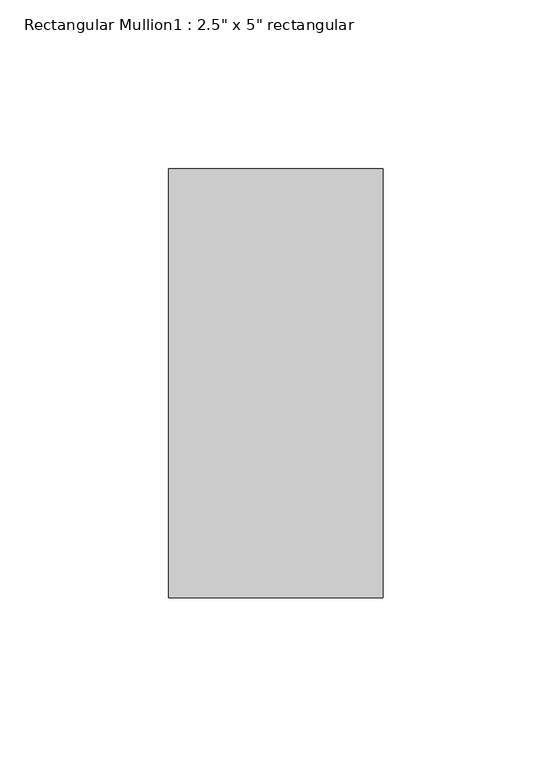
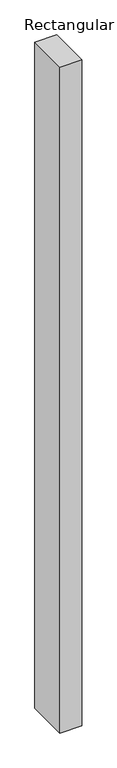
"""IFC4 building model written with IfcOpenShell, lengths in millimetres: member geometry."""

from ifc_helpers import new_model, si_unit, frame, origin, place, context, project, spatial, polyline, outline, extrude, source, transform, mapped, element, save


def member_6457a162(model_context):
    return source(origin(), model_context, "Body", "SweptSolid", [
        extrude(outline(polyline([(31.75, 63.5), (31.75, -63.5), (-31.75, -63.5), (-31.75, 63.5), (31.75, 63.5)])), frame((0.0, 0.0, -2059.94), z_axis=(0.0, 0.0, 1.0), x_axis=(1.0, 0.0, 0.0)), (0.0, 0.0, 1.0), 2059.94),
    ])


if __name__ == "__main__":
    model = new_model("IFC4")
    model_context = context("Model", 3, world=origin())
    ifc_project = project(units=[si_unit("LENGTHUNIT", "METRE", prefix="MILLI")], contexts=[model_context])
    site = spatial("IfcSite", under=ifc_project)
    building = spatial("IfcBuilding", under=site)
    placement = place(None, origin())
    member_shape = member_6457a162(model_context)
    element("IfcMember", 1, ObjectType="Rectangular Mullion1 : 2.5\" x 5\" rectangular", at=placement, inside=building, context=model_context, shape_type="MappedRepresentation", body=[
        mapped(member_shape, transform((0.0, 0.0, 0.0), x_axis=(1.0, 0.0, 0.0), y_axis=(0.0, 1.0, 0.0), z_axis=(0.0, 0.0, 1.0))),
    ])
    save(model, "model.ifc")
